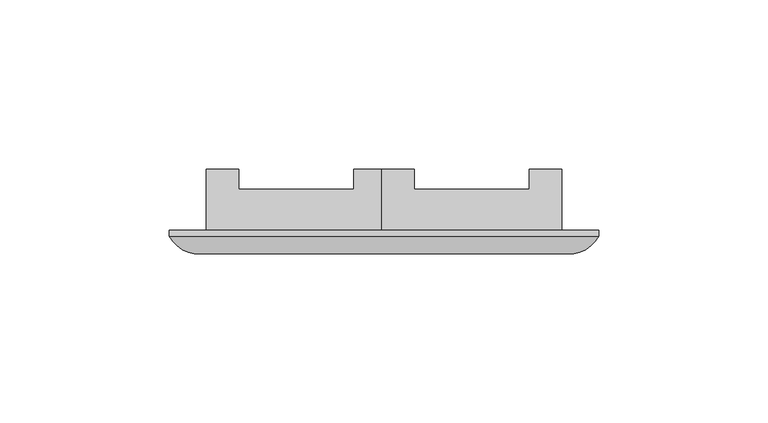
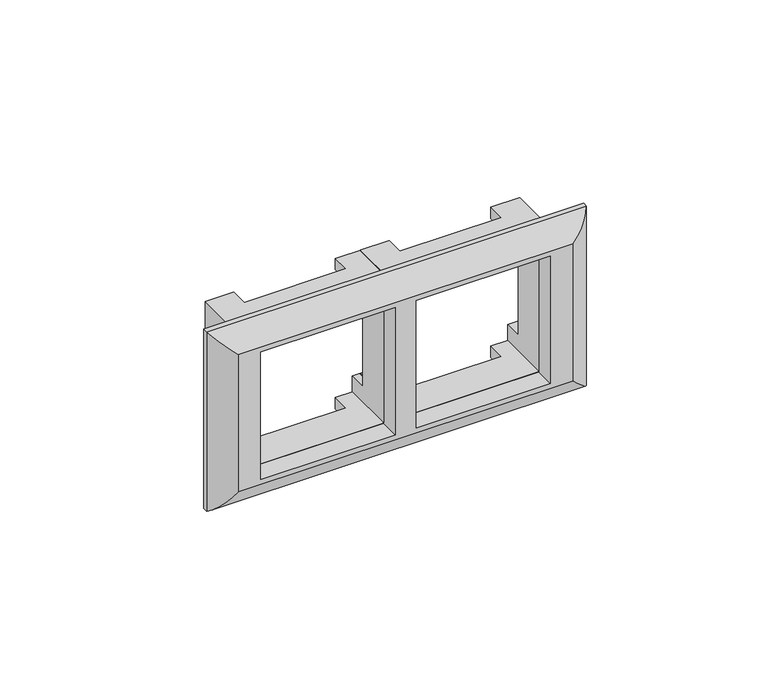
"""IFC4 building model written with IfcOpenShell, lengths in millimetres: proxy geometry."""

from ifc_helpers import new_model, si_unit, frame, origin, place, context, project, spatial, ellipse_curve, faceted_brep, source, transform, mapped, element, save
from ifc_brep_helpers import plane_surface, cylinder_surface, advanced_brep


def electrical_fixtures_64242326(model_context):
    return source(origin(), model_context, "Body", "SolidModel", [
        faceted_brep([(52.65, 18.1, -17.0), (52.65, 18.1, -26.65), (43.0, 18.1, -26.65), (43.0, 18.1, -22.65), (48.65, 18.1, -22.65), (48.65, 18.1, -17.0), (52.65, 18.1, 26.65), (52.65, 18.1, 17.0), (48.65, 18.1, 17.0), (48.65, 18.1, 22.65), (43.0, 18.1, 22.65), (43.0, 18.1, 26.65), (-0.65, 18.1, -26.65), (-0.65, 18.1, -17.0), (3.35, 18.1, -17.0), (3.35, 18.1, -22.65), (9.0, 18.1, -22.65), (9.0, 18.1, -26.65), (-0.65, 18.1, 17.0), (-0.65, 18.1, 26.65), (9.0, 18.1, 26.65), (9.0, 18.1, 22.65), (3.35, 18.1, 22.65), (3.35, 18.1, 17.0), (52.65, 0.0, -26.65), (52.65, 0.0, 26.65), (-0.65, 0.0, 26.65), (-0.65, 0.0, -26.65), (48.65, 0.0, -22.65), (3.35, 0.0, -22.65), (3.35, 0.0, 22.65), (48.65, 0.0, 22.65), (52.65, 12.0483806, -17.0), (52.65, 12.0483806, 17.0), (43.0, 12.0483806, 26.65), (9.0, 12.0483806, 26.65), (-0.65, 12.0483806, 17.0), (-0.65, 12.0483806, -17.0), (9.0, 12.0483806, -26.65), (43.0, 12.0483806, -26.65), (43.0, 12.0483806, -22.65), (9.0, 12.0483806, -22.65), (3.35, 12.0483806, -17.0), (3.35, 12.0483806, 17.0), (9.0, 12.0483806, 22.65), (43.0, 12.0483806, 22.65), (48.65, 12.0483806, 17.0), (48.65, 12.0483806, -17.0)], [[[0, 1, 2, 3, 4, 5]], [[6, 7, 8, 9, 10, 11]], [[12, 13, 14, 15, 16, 17]], [[18, 19, 20, 21, 22, 23]], [[24, 25, 26, 27], [28, 29, 30, 31]], [[25, 24, 1, 0, 32, 33, 7, 6]], [[26, 25, 6, 11, 34, 35, 20, 19]], [[27, 26, 19, 18, 36, 37, 13, 12]], [[24, 27, 12, 17, 38, 39, 2, 1]], [[29, 28, 4, 3, 40, 41, 16, 15]], [[30, 29, 15, 14, 42, 43, 23, 22]], [[31, 30, 22, 21, 44, 45, 10, 9]], [[28, 31, 9, 8, 46, 47, 5, 4]], [[37, 42, 14, 13]], [[47, 32, 0, 5]], [[43, 36, 18, 23]], [[33, 46, 8, 7]], [[42, 37, 36, 43]], [[32, 47, 46, 33]], [[41, 38, 17, 16]], [[35, 44, 21, 20]], [[39, 40, 3, 2]], [[45, 34, 11, 10]], [[40, 39, 38, 41]], [[34, 45, 44, 35]]]),
        faceted_brep([(0.65, 18.1, -17.0), (0.65, 18.1, -26.65), (-9.0, 18.1, -26.65), (-9.0, 18.1, -22.65), (-3.35, 18.1, -22.65), (-3.35, 18.1, -17.0), (0.65, 18.1, 26.65), (0.65, 18.1, 17.0), (-3.35, 18.1, 17.0), (-3.35, 18.1, 22.65), (-9.0, 18.1, 22.65), (-9.0, 18.1, 26.65), (-52.65, 18.1, -26.65), (-52.65, 18.1, -17.0), (-48.65, 18.1, -17.0), (-48.65, 18.1, -22.65), (-43.0, 18.1, -22.65), (-43.0, 18.1, -26.65), (-52.65, 18.1, 17.0), (-52.65, 18.1, 26.65), (-43.0, 18.1, 26.65), (-43.0, 18.1, 22.65), (-48.65, 18.1, 22.65), (-48.65, 18.1, 17.0), (0.65, 0.0, -26.65), (0.65, 0.0, 26.65), (-52.65, 0.0, 26.65), (-52.65, 0.0, -26.65), (-3.35, 0.0, -22.65), (-48.65, 0.0, -22.65), (-48.65, 0.0, 22.65), (-3.35, 0.0, 22.65), (0.65, 12.0483806, -17.0), (0.65, 12.0483806, 17.0), (-9.0, 12.0483806, 26.65), (-43.0, 12.0483806, 26.65), (-52.65, 12.0483806, 17.0), (-52.65, 12.0483806, -17.0), (-43.0, 12.0483806, -26.65), (-9.0, 12.0483806, -26.65), (-9.0, 12.0483806, -22.65), (-43.0, 12.0483806, -22.65), (-48.65, 12.0483806, -17.0), (-48.65, 12.0483806, 17.0), (-43.0, 12.0483806, 22.65), (-9.0, 12.0483806, 22.65), (-3.35, 12.0483806, 17.0), (-3.35, 12.0483806, -17.0)], [[[0, 1, 2, 3, 4, 5]], [[6, 7, 8, 9, 10, 11]], [[12, 13, 14, 15, 16, 17]], [[18, 19, 20, 21, 22, 23]], [[24, 25, 26, 27], [28, 29, 30, 31]], [[25, 24, 1, 0, 32, 33, 7, 6]], [[26, 25, 6, 11, 34, 35, 20, 19]], [[27, 26, 19, 18, 36, 37, 13, 12]], [[24, 27, 12, 17, 38, 39, 2, 1]], [[29, 28, 4, 3, 40, 41, 16, 15]], [[30, 29, 15, 14, 42, 43, 23, 22]], [[31, 30, 22, 21, 44, 45, 10, 9]], [[28, 31, 9, 8, 46, 47, 5, 4]], [[37, 42, 14, 13]], [[47, 32, 0, 5]], [[43, 36, 18, 23]], [[33, 46, 8, 7]], [[42, 37, 36, 43]], [[32, 47, 46, 33]], [[41, 38, 17, 16]], [[35, 44, 21, 20]], [[39, 40, 3, 2]], [[45, 34, 11, 10]], [[40, 39, 38, 41]], [[34, 45, 44, 35]]]),
        advanced_brep(
        [(63.6, -1.7181284, -31.75), (63.6, 0.0, -31.75), (63.6, 0.0, 31.75), (63.6, -1.7181284, 31.75), (56.111743, -7.0, 24.261743), (56.111743, -7.0, -24.261743), (-63.6, 0.0, 31.75), (-63.6, -1.7181284, 31.75), (-56.111743, -7.0, 24.261743), (-63.6, 0.0, -31.75), (-63.6, -1.7181284, -31.75), (-56.111743, -7.0, -24.261743), (-3.5, 0.0, 22.5), (-48.5, 0.0, 22.5), (-48.5, 0.0, -22.5), (-3.5, 0.0, -22.5), (3.5, 0.0, 22.5), (3.5, 0.0, -22.5), (48.5, 0.0, -22.5), (48.5, 0.0, 22.5), (-48.5, -7.0, 22.5), (-3.5, -7.0, 22.5), (-3.5, -7.0, -22.5), (-48.5, -7.0, -22.5), (3.5, -7.0, -22.5), (3.5, -7.0, 22.5), (48.5, -7.0, 22.5), (48.5, -7.0, -22.5)],
        [
            (0, 1),
            (1, 2),
            (2, 3),
            (3, 0),
            (3, 4, ellipse_curve(frame((54.3370905, 3.4650658, 22.4870905), z_axis=(0.7071067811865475, 0.0, -0.7071067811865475), x_axis=(-0.7071067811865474, 0.0, -0.7071067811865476)), 15.0111288, 10.614471)),
            (4, 5),
            (5, 0, ellipse_curve(frame((54.3370905, 3.4650658, -22.4870905), z_axis=(0.7071067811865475, 0.0, 0.7071067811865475), x_axis=(0.7071067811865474, 0.0, -0.7071067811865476)), 15.0111288, 10.614471)),
            (2, 6),
            (6, 7),
            (7, 3),
            (7, 8, ellipse_curve(frame((-54.3370905, 3.4650658, 22.4870905), z_axis=(0.7071067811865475, 0.0, 0.7071067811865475), x_axis=(0.7071067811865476, 0.0, -0.7071067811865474)), 15.0111288, 10.614471)),
            (8, 4),
            (6, 9),
            (9, 10),
            (10, 7),
            (10, 11, ellipse_curve(frame((-54.3370905, 3.4650658, -22.4870905), z_axis=(-0.7071067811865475, 0.0, 0.7071067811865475), x_axis=(0.7071067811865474, 0.0, 0.7071067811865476)), 15.0111288, 10.614471)),
            (11, 8),
            (1, 9),
            (12, 13),
            (13, 14),
            (14, 15),
            (15, 12),
            (16, 17),
            (17, 18),
            (18, 19),
            (19, 16),
            (0, 10),
            (5, 11),
            (20, 21),
            (21, 22),
            (22, 23),
            (23, 20),
            (24, 25),
            (25, 26),
            (26, 27),
            (27, 24),
            (24, 17),
            (16, 25),
            (21, 12),
            (15, 22),
            (20, 13),
            (23, 14),
            (26, 19),
            (18, 27),
        ],
        [
            plane_surface(frame((63.6, 0.0, -31.75), z_axis=(1.0, 0.0, 0.0), x_axis=(0.0, 0.0, 1.0))),
            cylinder_surface(frame((54.3370905, 3.4650658, -31.75), z_axis=(0.0, 0.0, -1.0), x_axis=(-1.0, 0.0, 0.0)), 10.614471),
            plane_surface(frame((63.6, 0.0, 31.75), z_axis=(0.0, 0.0, 1.0), x_axis=(-1.0, 0.0, 0.0))),
            cylinder_surface(frame((63.6, 3.4650658, 22.4870905), z_axis=(1.0, 0.0, 0.0), x_axis=(0.0, 0.0, -1.0)), 10.614471),
            plane_surface(frame((-63.6, 0.0, 31.75), z_axis=(-1.0, 0.0, 0.0), x_axis=(0.0, 0.0, -1.0))),
            cylinder_surface(frame((-54.3370905, 3.4650658, 31.75), z_axis=(0.0, 0.0, 1.0), x_axis=(1.0, 0.0, 0.0)), 10.614471),
            plane_surface(frame((-37.85, 0.0, -6.0), z_axis=(0.0, 1.0, 0.0), x_axis=(1.0, 0.0, 0.0))),
            plane_surface(frame((-63.6, 0.0, -31.75), z_axis=(0.0, 0.0, -1.0), x_axis=(1.0, 0.0, 0.0))),
            cylinder_surface(frame((-63.6, 3.4650658, -22.4870905), z_axis=(-1.0, 0.0, 0.0), x_axis=(0.0, 0.0, 1.0)), 10.614471),
            plane_surface(frame((-56.111743, -7.0, -24.261743), z_axis=(0.0, -1.0, 0.0), x_axis=(1.0, 0.0, 0.0))),
            plane_surface(frame((3.5, -7.0, -6.0), z_axis=(1.0, 0.0, 0.0), x_axis=(0.0, 1.0, 0.0))),
            plane_surface(frame((-3.5, -7.0, 6.0), z_axis=(-1.0, 0.0, 0.0), x_axis=(0.0, 1.0, 0.0))),
            plane_surface(frame((-3.5, -7.0, 22.5), z_axis=(0.0, 0.0, -1.0), x_axis=(0.0, 1.0, 0.0))),
            plane_surface(frame((-48.5, -7.0, 22.5), z_axis=(1.0, 0.0, 0.0), x_axis=(0.0, 1.0, 0.0))),
            plane_surface(frame((-48.5, -7.0, -22.5), z_axis=(0.0, 0.0, 1.0), x_axis=(0.0, 1.0, 0.0))),
            plane_surface(frame((48.5, -7.0, -22.5), z_axis=(-1.0, 0.0, 0.0), x_axis=(0.0, 1.0, 0.0))),
            plane_surface(frame((48.5, -7.0, 22.5), z_axis=(0.0, 0.0, -1.0), x_axis=(0.0, 1.0, 0.0))),
            plane_surface(frame((3.5, -7.0, -22.5), z_axis=(0.0, 0.0, 1.0), x_axis=(0.0, 1.0, 0.0))),
        ],
        [
            (0, [[1, 2, 3, 4]]),
            (1, [[-4, 5, 6, 7]]),
            (2, [[-3, 8, 9, 10]]),
            (3, [[-5, -10, 11, 12]]),
            (4, [[-9, 13, 14, 15]]),
            (5, [[-11, -15, 16, 17]]),
            (6, [[-2, 18, -13, -8], [19, 20, 21, 22], [23, 24, 25, 26]]),
            (7, [[-1, 27, -14, -18]]),
            (8, [[-7, 28, -16, -27]]),
            (9, [[-6, -12, -17, -28], [29, 30, 31, 32], [33, 34, 35, 36]]),
            (10, [[37, -23, 38, -33]]),
            (11, [[39, -22, 40, -30]]),
            (12, [[-39, -29, 41, -19]]),
            (13, [[-41, -32, 42, -20]]),
            (14, [[-40, -21, -42, -31]]),
            (15, [[43, -25, 44, -35]]),
            (16, [[-43, -34, -38, -26]]),
            (17, [[-44, -24, -37, -36]]),
        ],
    ),
    ])


if __name__ == "__main__":
    model = new_model("IFC4")
    model_context = context("Model", 3, world=origin())
    ifc_project = project(units=[si_unit("LENGTHUNIT", "METRE", prefix="MILLI")], contexts=[model_context])
    site = spatial("IfcSite", under=ifc_project)
    building = spatial("IfcBuilding", under=site)
    placement = place(None, origin())
    electrical_fixtures_shape = electrical_fixtures_64242326(model_context)
    element("IfcBuildingElementProxy", 1, Name="Electrical Fixtures", at=placement, inside=building, context=model_context, shape_type="MappedRepresentation", body=[
        mapped(electrical_fixtures_shape, transform((0.0, 0.0, 0.0), x_axis=(1.0, 0.0, 0.0), y_axis=(0.0, 1.0, 0.0), z_axis=(0.0, 0.0, 1.0))),
    ])
    save(model, "model.ifc")
